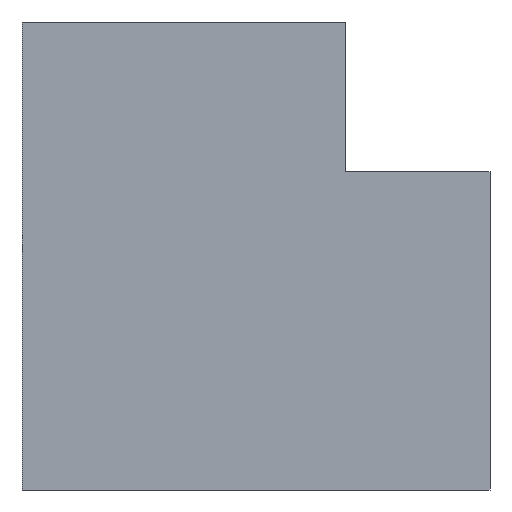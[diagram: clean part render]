
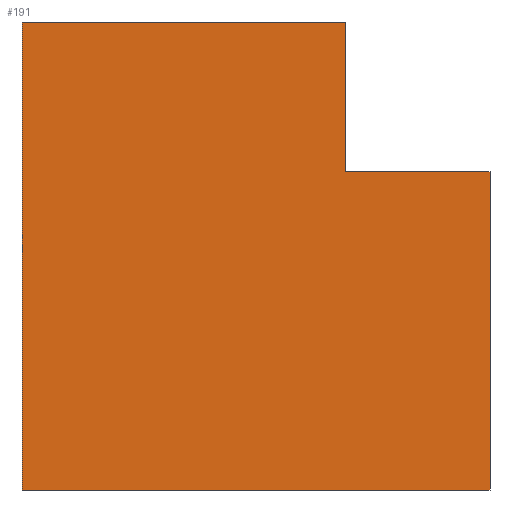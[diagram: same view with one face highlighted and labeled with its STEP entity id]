
A CAD part, front view. The second image highlights one B-rep face of the part: STEP entity #191.
In plain terms, the highlighted planar face has unit normal (0, -1, 0).
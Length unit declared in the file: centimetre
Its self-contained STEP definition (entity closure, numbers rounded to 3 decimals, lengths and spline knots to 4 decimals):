
#1 = VECTOR ( 'NONE', #216, 100. ) ;
#8 = DIRECTION ( 'NONE',  ( 0., 1., 0. ) ) ;
#29 = ORIENTED_EDGE ( 'NONE', *, *, #305, .F. ) ;
#31 = CARTESIAN_POINT ( 'NONE',  ( 0., 0., 1000. ) ) ;
#36 = LINE ( 'NONE', #271, #50 ) ;
#46 = LINE ( 'NONE', #254, #1 ) ;
#50 = VECTOR ( 'NONE', #174, 100. ) ;
#53 = EDGE_CURVE ( 'NONE', #314, #287, #46, .T. ) ;
#73 = LINE ( 'NONE', #148, #161 ) ;
#86 = ORIENTED_EDGE ( 'NONE', *, *, #325, .T. ) ;
#92 = CARTESIAN_POINT ( 'NONE',  ( 1000., 0., 1000. ) ) ;
#95 = CARTESIAN_POINT ( 'NONE',  ( 0., 0., 1000. ) ) ;
#104 = EDGE_CURVE ( 'NONE', #287, #186, #249, .T. ) ;
#105 = EDGE_CURVE ( 'NONE', #237, #162, #36, .T. ) ;
#118 = LINE ( 'NONE', #92, #263 ) ;
#148 = CARTESIAN_POINT ( 'NONE',  ( 0., 0., 0. ) ) ;
#161 = VECTOR ( 'NONE', #272, 100. ) ;
#162 = VERTEX_POINT ( 'NONE', #318 ) ;
#170 = CARTESIAN_POINT ( 'NONE',  ( 0., 0., 1000. ) ) ;
#172 = DIRECTION ( 'NONE',  ( 1., 0., 0. ) ) ;
#174 = DIRECTION ( 'NONE',  ( 0., 0., -1. ) ) ;
#175 = CARTESIAN_POINT ( 'NONE',  ( 1000., 0., 0. ) ) ;
#186 = VERTEX_POINT ( 'NONE', #188 ) ;
#188 = CARTESIAN_POINT ( 'NONE',  ( 1000., 0., 679.8662 ) ) ;
#189 = DIRECTION ( 'NONE',  ( 1., 0., 0. ) ) ;
#191 = ADVANCED_FACE ( 'NONE', ( #289 ), #266, .F. ) ;
#195 = CARTESIAN_POINT ( 'NONE',  ( 691.2073, 0., 679.8662 ) ) ;
#207 = VERTEX_POINT ( 'NONE', #175 ) ;
#210 = CARTESIAN_POINT ( 'NONE',  ( 691.2073, 0., 679.8662 ) ) ;
#216 = DIRECTION ( 'NONE',  ( 0., 0., -1. ) ) ;
#218 = VECTOR ( 'NONE', #189, 100. ) ;
#219 = VECTOR ( 'NONE', #172, 100. ) ;
#233 = EDGE_LOOP ( 'NONE', ( #260, #286, #259, #317, #86, #29 ) ) ;
#236 = EDGE_CURVE ( 'NONE', #237, #314, #269, .T. ) ;
#237 = VERTEX_POINT ( 'NONE', #170 ) ;
#246 = AXIS2_PLACEMENT_3D ( 'NONE', #31, #8, #323 ) ;
#248 = CARTESIAN_POINT ( 'NONE',  ( 691.2073, 0., 1000. ) ) ;
#249 = LINE ( 'NONE', #210, #218 ) ;
#254 = CARTESIAN_POINT ( 'NONE',  ( 691.2073, 0., 679.8662 ) ) ;
#259 = ORIENTED_EDGE ( 'NONE', *, *, #236, .F. ) ;
#260 = ORIENTED_EDGE ( 'NONE', *, *, #104, .F. ) ;
#263 = VECTOR ( 'NONE', #292, 100. ) ;
#266 = PLANE ( 'NONE',  #246 ) ;
#269 = LINE ( 'NONE', #95, #219 ) ;
#271 = CARTESIAN_POINT ( 'NONE',  ( 0., 0., 1000. ) ) ;
#272 = DIRECTION ( 'NONE',  ( 1., 0., 0. ) ) ;
#286 = ORIENTED_EDGE ( 'NONE', *, *, #53, .F. ) ;
#287 = VERTEX_POINT ( 'NONE', #195 ) ;
#289 = FACE_OUTER_BOUND ( 'NONE', #233, .T. ) ;
#292 = DIRECTION ( 'NONE',  ( 0., 0., -1. ) ) ;
#305 = EDGE_CURVE ( 'NONE', #186, #207, #118, .T. ) ;
#314 = VERTEX_POINT ( 'NONE', #248 ) ;
#317 = ORIENTED_EDGE ( 'NONE', *, *, #105, .T. ) ;
#318 = CARTESIAN_POINT ( 'NONE',  ( 0., 0., 0. ) ) ;
#323 = DIRECTION ( 'NONE',  ( 0., 0., 1. ) ) ;
#325 = EDGE_CURVE ( 'NONE', #162, #207, #73, .T. ) ;
